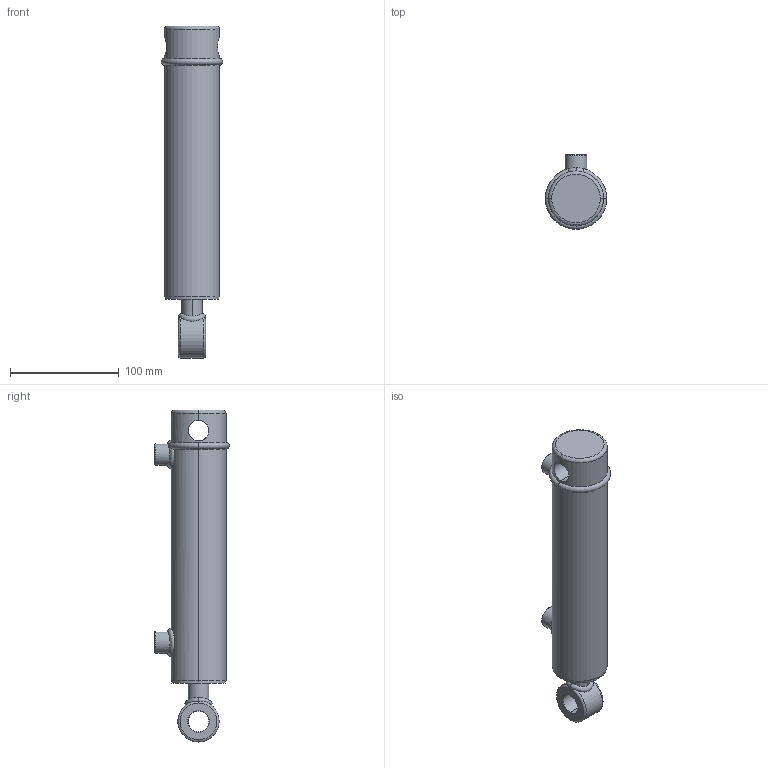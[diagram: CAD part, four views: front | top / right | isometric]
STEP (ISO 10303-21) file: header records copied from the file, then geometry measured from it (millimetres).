
FILE_DESCRIPTION (( 'STEP AP203' ), '1' );
FILE_NAME ('SB-C150075X152 (6).STEP', '2014-12-18T17:28:18', ( '' ), ( '' ), 'SwSTEP 2.0', 'SolidWorks 2015', '' );
FILE_SCHEMA (( 'CONFIG_CONTROL_DESIGN' ));
Length unit declared in the file: millimetre
Products named in the file (3): BODY_6; SPARE_6; SB-C150075X152 (6)
Assembly tree (2 placements, depth 2):
  SB-C150075X152 (6)
    BODY_6
    SPARE_6
Bounding box: 56.7 x 68.75 x 306 mm (x, y, z)
Volume: 550809.3 mm3; surface area: 76146.5 mm2
Topology: 2 solids, 2 shells, 90 faces, 211 edges, 127 vertices
Faces by surface type: cylinder 32, torus 20, bspline 17, plane 13, cone 8
Entity records: 8172 total; most frequent: CARTESIAN_POINT 5968, ORIENTED_EDGE 414, DIRECTION 380, EDGE_CURVE 207, AXIS2_PLACEMENT_3D 169, VERTEX_POINT 127, EDGE_LOOP 104, CIRCLE 91
